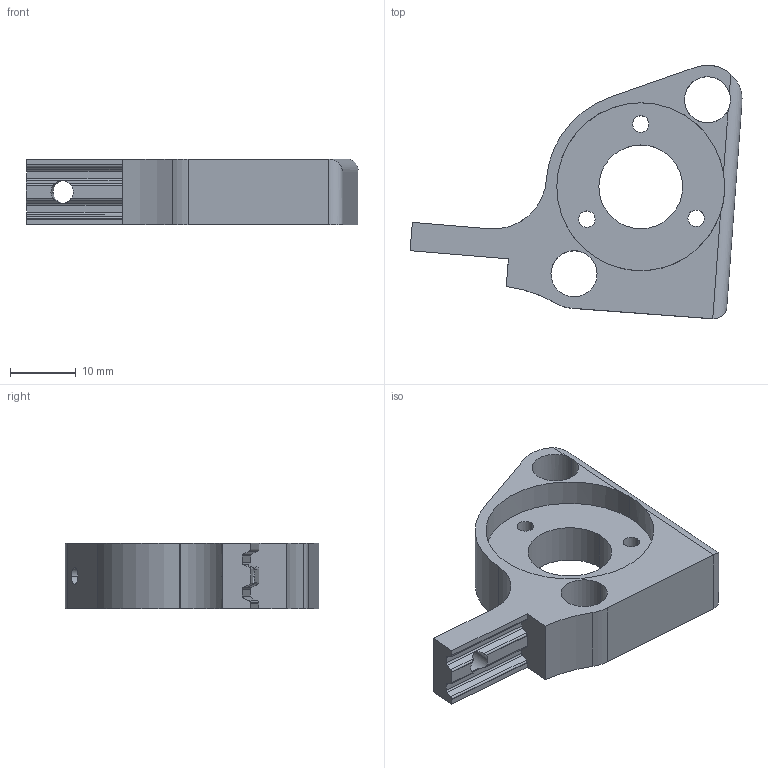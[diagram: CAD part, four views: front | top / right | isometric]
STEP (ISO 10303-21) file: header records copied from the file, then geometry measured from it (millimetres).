
FILE_DESCRIPTION (( 'STEP AP203' ), '1' );
FILE_NAME ('J5 belt carrier.STEP', '2017-08-03T00:49:26', ( '' ), ( '' ), 'SwSTEP 2.0', 'SolidWorks 2016', '' );
FILE_SCHEMA (( 'CONFIG_CONTROL_DESIGN' ));
Length unit declared in the file: millimetre
Products named in the file (1): J5 belt carrier
Bounding box: 50.39 x 38.49 x 10 mm (x, y, z)
Volume: 7016.7 mm3; surface area: 4535.1 mm2
Topology: 1 solids, 1 shells, 60 faces, 181 edges, 121 vertices
Faces by surface type: cylinder 40, plane 20
Entity records: 2310 total; most frequent: CARTESIAN_POINT 571, ORIENTED_EDGE 362, DIRECTION 336, EDGE_CURVE 181, AXIS2_PLACEMENT_3D 122, VERTEX_POINT 121, VECTOR 92, LINE 92
